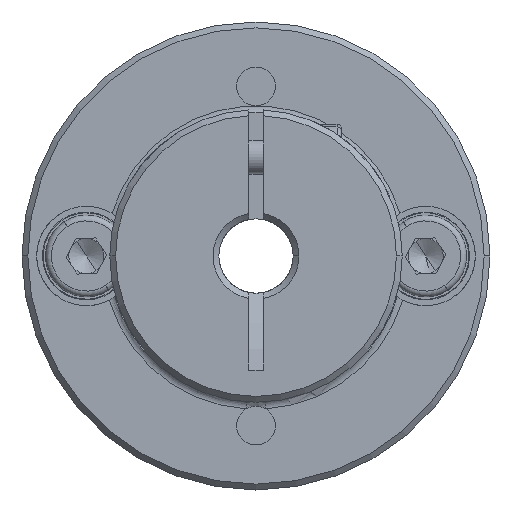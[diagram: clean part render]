
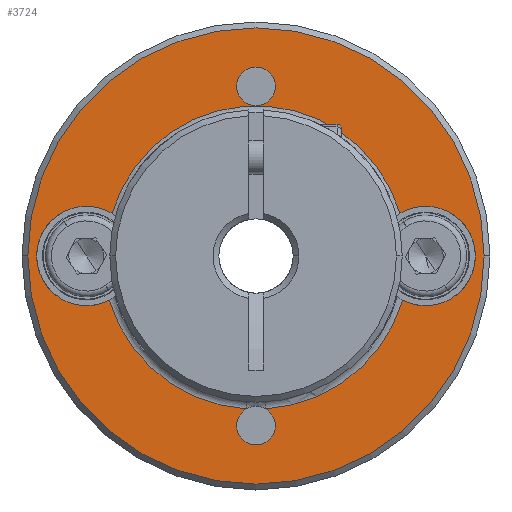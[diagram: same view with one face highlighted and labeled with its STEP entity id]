
A CAD part, front view. The second image highlights one B-rep face of the part: STEP entity #3724.
In plain terms, the highlighted planar face has unit normal (0, -1, 0).
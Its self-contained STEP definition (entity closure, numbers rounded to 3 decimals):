
#22 = EDGE_CURVE ( 'NONE', #7717, #12453, #760, .T. ) ;
#140 = CARTESIAN_POINT ( 'NONE',  ( -12.005, -13.63, 40. ) ) ;
#177 = ORIENTED_EDGE ( 'NONE', *, *, #2190, .T. ) ;
#233 = CARTESIAN_POINT ( 'NONE',  ( 7.495, -13.63, 40. ) ) ;
#238 = CARTESIAN_POINT ( 'NONE',  ( -12.005, -13.63, 40. ) ) ;
#337 = DIRECTION ( 'NONE',  ( 0., 1., 0. ) ) ;
#365 = CARTESIAN_POINT ( 'NONE',  ( 0.298, -13.63, 43.638 ) ) ;
#367 = ORIENTED_EDGE ( 'NONE', *, *, #12218, .T. ) ;
#529 = ORIENTED_EDGE ( 'NONE', *, *, #12616, .T. ) ;
#532 = ORIENTED_EDGE ( 'NONE', *, *, #9002, .T. ) ;
#548 = DIRECTION ( 'NONE',  ( 1., 0., 0. ) ) ;
#601 = CIRCLE ( 'NONE', #12041, 1.65 ) ;
#746 = CIRCLE ( 'NONE', #12318, 4.25 ) ;
#760 = CIRCLE ( 'NONE', #1421, 12.829 ) ;
#774 = CIRCLE ( 'NONE', #11086, 13.1 ) ;
#777 = CIRCLE ( 'NONE', #2918, 4.25 ) ;
#1008 = DIRECTION ( 'NONE',  ( 1., 0., 0. ) ) ;
#1198 = AXIS2_PLACEMENT_3D ( 'NONE', #11940, #5099, #11987 ) ;
#1421 = AXIS2_PLACEMENT_3D ( 'NONE', #6100, #6324, #548 ) ;
#1448 = ORIENTED_EDGE ( 'NONE', *, *, #4423, .T. ) ;
#1600 = AXIS2_PLACEMENT_3D ( 'NONE', #12556, #7653, #1745 ) ;
#1745 = DIRECTION ( 'NONE',  ( 1., 0., 0. ) ) ;
#1955 = ORIENTED_EDGE ( 'NONE', *, *, #3185, .T. ) ;
#2190 = EDGE_CURVE ( 'NONE', #3820, #3637, #7252, .T. ) ;
#2308 = ORIENTED_EDGE ( 'NONE', *, *, #5797, .T. ) ;
#2333 = DIRECTION ( 'NONE',  ( 1., 0., 0. ) ) ;
#2342 = VERTEX_POINT ( 'NONE', #6528 ) ;
#2495 = CARTESIAN_POINT ( 'NONE',  ( -11.175, -13.63, 26.926 ) ) ;
#2684 = AXIS2_PLACEMENT_3D ( 'NONE', #140, #7070, #11077 ) ;
#2689 = FACE_BOUND ( 'NONE', #3740, .T. ) ;
#2869 = EDGE_CURVE ( 'NONE', #10524, #11929, #11353, .T. ) ;
#2918 = AXIS2_PLACEMENT_3D ( 'NONE', #2969, #9954, #1008 ) ;
#2969 = CARTESIAN_POINT ( 'NONE',  ( 2.495, -13.63, 40. ) ) ;
#3098 = DIRECTION ( 'NONE',  ( 1., 0., 0. ) ) ;
#3185 = EDGE_CURVE ( 'NONE', #10236, #7441, #5291, .T. ) ;
#3207 = DIRECTION ( 'NONE',  ( 0., 1., 0. ) ) ;
#3244 = DIRECTION ( 'NONE',  ( 1., 0., 0. ) ) ;
#3288 = CARTESIAN_POINT ( 'NONE',  ( -26.505, -13.63, 40. ) ) ;
#3541 = EDGE_CURVE ( 'NONE', #2342, #9374, #601, .T. ) ;
#3636 = AXIS2_PLACEMENT_3D ( 'NONE', #3288, #12163, #3244 ) ;
#3637 = VERTEX_POINT ( 'NONE', #8019 ) ;
#3668 = CARTESIAN_POINT ( 'NONE',  ( -13.655, -13.63, 54.5 ) ) ;
#3712 = DIRECTION ( 'NONE',  ( 1., 0., 0. ) ) ;
#3724 = ADVANCED_FACE ( 'NONE', ( #10895, #2689, #5617 ), #5221, .T. ) ;
#3740 = EDGE_LOOP ( 'NONE', ( #177, #11852, #5933, #529, #11533, #1955, #532, #11187, #367, #10336 ) ) ;
#3820 = VERTEX_POINT ( 'NONE', #12691 ) ;
#3948 = DIRECTION ( 'NONE',  ( 1., 0., 0. ) ) ;
#4129 = CARTESIAN_POINT ( 'NONE',  ( -31.505, -13.63, 40. ) ) ;
#4266 = DIRECTION ( 'NONE',  ( 1., 0., 0. ) ) ;
#4423 = EDGE_CURVE ( 'NONE', #11929, #10524, #5657, .T. ) ;
#4610 = AXIS2_PLACEMENT_3D ( 'NONE', #12215, #8351, #7401 ) ;
#4689 = DIRECTION ( 'NONE',  ( 0., 1., 0. ) ) ;
#4757 = CARTESIAN_POINT ( 'NONE',  ( -10.355, -13.63, 25.5 ) ) ;
#4983 = EDGE_CURVE ( 'NONE', #3637, #7717, #7709, .T. ) ;
#5099 = DIRECTION ( 'NONE',  ( 0., 1., 0. ) ) ;
#5221 = PLANE ( 'NONE',  #4610 ) ;
#5291 = CIRCLE ( 'NONE', #2684, 13.1 ) ;
#5349 = DIRECTION ( 'NONE',  ( 0., 1., 0. ) ) ;
#5396 = EDGE_CURVE ( 'NONE', #10081, #3820, #774, .T. ) ;
#5617 = FACE_BOUND ( 'NONE', #8367, .T. ) ;
#5657 = CIRCLE ( 'NONE', #8270, 19.5 ) ;
#5797 = EDGE_CURVE ( 'NONE', #9374, #2342, #11230, .T. ) ;
#5933 = ORIENTED_EDGE ( 'NONE', *, *, #22, .T. ) ;
#5958 = DIRECTION ( 'NONE',  ( 0., 1., 0. ) ) ;
#6080 = CARTESIAN_POINT ( 'NONE',  ( -26.505, -13.63, 40. ) ) ;
#6088 = CARTESIAN_POINT ( 'NONE',  ( -12.834, -13.63, 26.926 ) ) ;
#6100 = CARTESIAN_POINT ( 'NONE',  ( -12.005, -13.63, 40. ) ) ;
#6113 = AXIS2_PLACEMENT_3D ( 'NONE', #9625, #12668, #11760 ) ;
#6150 = AXIS2_PLACEMENT_3D ( 'NONE', #6080, #3207, #4266 ) ;
#6261 = CARTESIAN_POINT ( 'NONE',  ( 0.54, -13.63, 36.226 ) ) ;
#6324 = DIRECTION ( 'NONE',  ( 0., 1., 0. ) ) ;
#6441 = EDGE_CURVE ( 'NONE', #11959, #10236, #746, .T. ) ;
#6528 = CARTESIAN_POINT ( 'NONE',  ( -10.355, -13.63, 54.5 ) ) ;
#6654 = VERTEX_POINT ( 'NONE', #4757 ) ;
#6675 = DIRECTION ( 'NONE',  ( 1., 0., 0. ) ) ;
#6719 = CARTESIAN_POINT ( 'NONE',  ( -12.005, -13.63, 25.5 ) ) ;
#6779 = DIRECTION ( 'NONE',  ( 0., -1., 0. ) ) ;
#7070 = DIRECTION ( 'NONE',  ( 0., 1., 0. ) ) ;
#7252 = CIRCLE ( 'NONE', #6150, 4.25 ) ;
#7401 = DIRECTION ( 'NONE',  ( 1., 0., 0. ) ) ;
#7441 = VERTEX_POINT ( 'NONE', #2495 ) ;
#7489 = CIRCLE ( 'NONE', #1600, 1.65 ) ;
#7653 = DIRECTION ( 'NONE',  ( 0., 1., 0. ) ) ;
#7709 = CIRCLE ( 'NONE', #3636, 4.25 ) ;
#7717 = VERTEX_POINT ( 'NONE', #10070 ) ;
#7820 = DIRECTION ( 'NONE',  ( 1., 0., 0. ) ) ;
#7873 = CARTESIAN_POINT ( 'NONE',  ( -13.655, -13.63, 25.5 ) ) ;
#7929 = CARTESIAN_POINT ( 'NONE',  ( -12.005, -13.63, 54.5 ) ) ;
#8019 = CARTESIAN_POINT ( 'NONE',  ( -30.755, -13.63, 40. ) ) ;
#8252 = AXIS2_PLACEMENT_3D ( 'NONE', #9583, #8613, #3712 ) ;
#8270 = AXIS2_PLACEMENT_3D ( 'NONE', #12764, #6779, #7820 ) ;
#8351 = DIRECTION ( 'NONE',  ( 0., -1., 0. ) ) ;
#8367 = EDGE_LOOP ( 'NONE', ( #2308, #12102 ) ) ;
#8519 = ORIENTED_EDGE ( 'NONE', *, *, #2869, .T. ) ;
#8613 = DIRECTION ( 'NONE',  ( 0., -1., 0. ) ) ;
#8948 = VERTEX_POINT ( 'NONE', #7873 ) ;
#9002 = EDGE_CURVE ( 'NONE', #7441, #6654, #10254, .T. ) ;
#9035 = AXIS2_PLACEMENT_3D ( 'NONE', #6719, #4689, #6675 ) ;
#9101 = CIRCLE ( 'NONE', #9035, 1.65 ) ;
#9374 = VERTEX_POINT ( 'NONE', #3668 ) ;
#9583 = CARTESIAN_POINT ( 'NONE',  ( -12.005, -13.63, 40. ) ) ;
#9625 = CARTESIAN_POINT ( 'NONE',  ( -12.005, -13.63, 54.5 ) ) ;
#9954 = DIRECTION ( 'NONE',  ( 0., 1., 0. ) ) ;
#10070 = CARTESIAN_POINT ( 'NONE',  ( -24.307, -13.63, 43.638 ) ) ;
#10081 = VERTEX_POINT ( 'NONE', #6088 ) ;
#10236 = VERTEX_POINT ( 'NONE', #6261 ) ;
#10254 = CIRCLE ( 'NONE', #1198, 1.65 ) ;
#10336 = ORIENTED_EDGE ( 'NONE', *, *, #5396, .T. ) ;
#10524 = VERTEX_POINT ( 'NONE', #233 ) ;
#10835 = EDGE_LOOP ( 'NONE', ( #1448, #8519 ) ) ;
#10895 = FACE_OUTER_BOUND ( 'NONE', #10835, .T. ) ;
#11042 = CARTESIAN_POINT ( 'NONE',  ( 6.745, -13.63, 40. ) ) ;
#11077 = DIRECTION ( 'NONE',  ( 1., 0., 0. ) ) ;
#11086 = AXIS2_PLACEMENT_3D ( 'NONE', #238, #337, #3098 ) ;
#11187 = ORIENTED_EDGE ( 'NONE', *, *, #11309, .T. ) ;
#11230 = CIRCLE ( 'NONE', #6113, 1.65 ) ;
#11309 = EDGE_CURVE ( 'NONE', #6654, #8948, #7489, .T. ) ;
#11353 = CIRCLE ( 'NONE', #8252, 19.5 ) ;
#11533 = ORIENTED_EDGE ( 'NONE', *, *, #6441, .T. ) ;
#11760 = DIRECTION ( 'NONE',  ( 1., 0., 0. ) ) ;
#11852 = ORIENTED_EDGE ( 'NONE', *, *, #4983, .T. ) ;
#11929 = VERTEX_POINT ( 'NONE', #4129 ) ;
#11940 = CARTESIAN_POINT ( 'NONE',  ( -12.005, -13.63, 25.5 ) ) ;
#11959 = VERTEX_POINT ( 'NONE', #11042 ) ;
#11987 = DIRECTION ( 'NONE',  ( 1., 0., 0. ) ) ;
#12041 = AXIS2_PLACEMENT_3D ( 'NONE', #7929, #5958, #3948 ) ;
#12102 = ORIENTED_EDGE ( 'NONE', *, *, #3541, .T. ) ;
#12163 = DIRECTION ( 'NONE',  ( 0., 1., 0. ) ) ;
#12215 = CARTESIAN_POINT ( 'NONE',  ( -12.005, -13.63, 40. ) ) ;
#12218 = EDGE_CURVE ( 'NONE', #8948, #10081, #9101, .T. ) ;
#12253 = CARTESIAN_POINT ( 'NONE',  ( 2.495, -13.63, 40. ) ) ;
#12318 = AXIS2_PLACEMENT_3D ( 'NONE', #12253, #5349, #2333 ) ;
#12453 = VERTEX_POINT ( 'NONE', #365 ) ;
#12556 = CARTESIAN_POINT ( 'NONE',  ( -12.005, -13.63, 25.5 ) ) ;
#12616 = EDGE_CURVE ( 'NONE', #12453, #11959, #777, .T. ) ;
#12668 = DIRECTION ( 'NONE',  ( 0., 1., 0. ) ) ;
#12691 = CARTESIAN_POINT ( 'NONE',  ( -24.55, -13.63, 36.226 ) ) ;
#12764 = CARTESIAN_POINT ( 'NONE',  ( -12.005, -13.63, 40. ) ) ;
